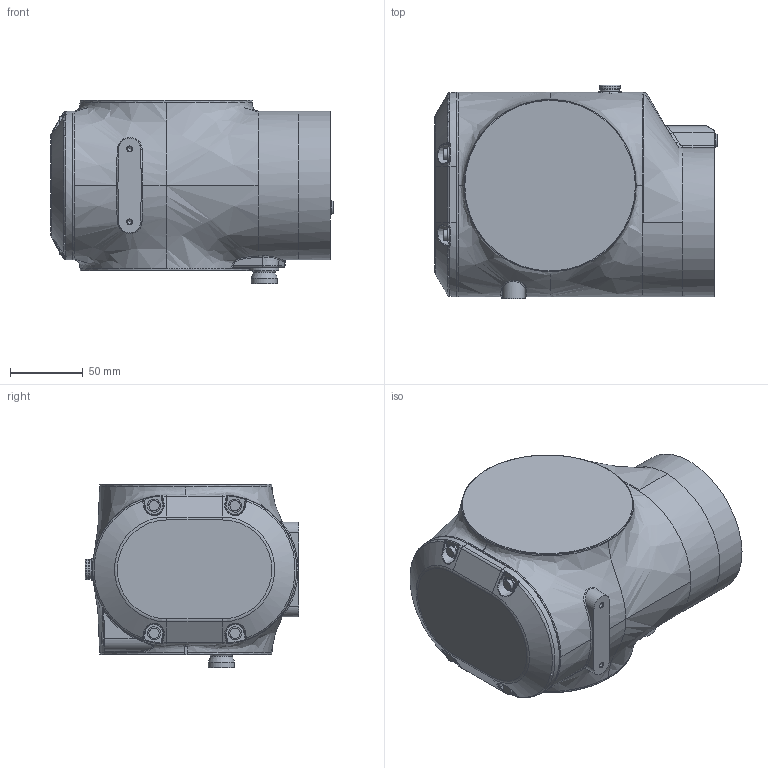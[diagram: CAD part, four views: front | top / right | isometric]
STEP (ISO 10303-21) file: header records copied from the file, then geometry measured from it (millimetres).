
FILE_DESCRIPTION (( 'STEP AP203' ), '1' );
FILE_NAME ('IRB1200GEN2_5kg-910_BTM_OC_00_Link03L_CAD.STEP', '2025-06-16T02:16:35', ( '' ), ( '' ), 'SwSTEP 2.0', 'SolidWorks 2022', '' );
FILE_SCHEMA (( 'CONFIG_CONTROL_DESIGN' ));
Length unit declared in the file: millimetre
Products named in the file (1): IRB1200GEN2_5kg-910_BTM_OC_00_Link03L_CAD
Bounding box: 193.5 x 146.5 x 126 mm (x, y, z)
Volume: 2417466.4 mm3; surface area: 105561.7 mm2
Topology: 1 solids, 1 shells, 268 faces, 625 edges, 378 vertices
Faces by surface type: bspline 91, plane 71, cylinder 59, torus 25, cone 22
Full cylindrical faces by diameter (mm): 3.3 x2, 7 x4, 9 x4, 9.9 x2, 10 x2, 11.3 x1, 13 x1, 14 x1, 18 x1, 20 x1, 20.5 x1
Entity records: 26041 total; most frequent: CARTESIAN_POINT 20818, ORIENTED_EDGE 1154, DIRECTION 879, EDGE_CURVE 577, AXIS2_PLACEMENT_3D 380, VERTEX_POINT 367, EDGE_LOOP 324, FACE_OUTER_BOUND 292
